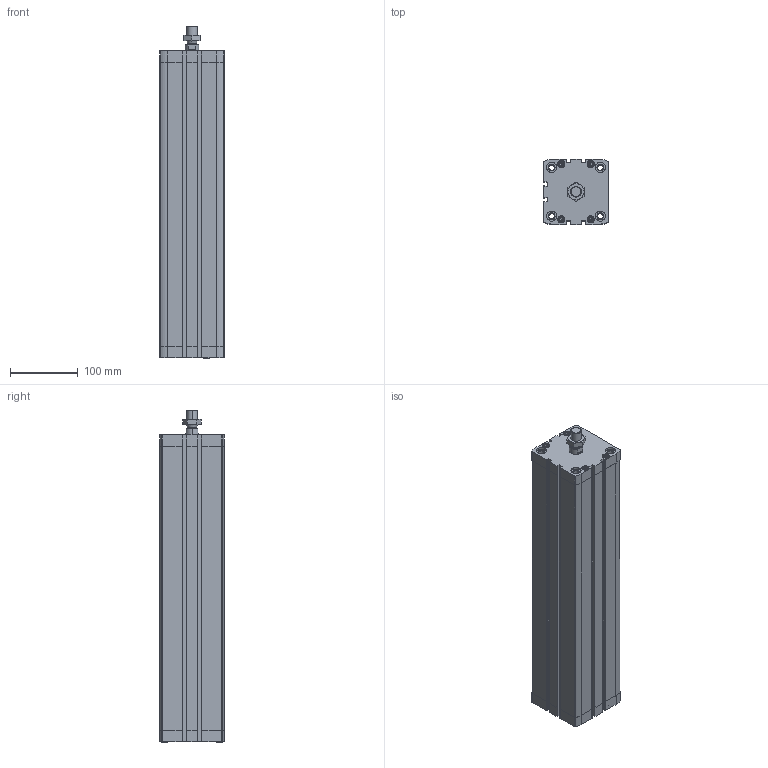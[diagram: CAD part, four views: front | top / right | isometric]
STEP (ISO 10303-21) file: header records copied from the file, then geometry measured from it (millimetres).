
FILE_DESCRIPTION (( 'STEP AP203' ), '1' );
FILE_NAME ('CCN80-400M.STEP', '2017-04-06T12:05:18', ( '' ), ( '' ), 'SwSTEP 2.0', 'SolidWorks 2016', '' );
FILE_SCHEMA (( 'CONFIG_CONTROL_DESIGN' ));
Length unit declared in the file: millimetre
Products named in the file (4): CCN-400----(Z); CCN-400_(KS); _DIN-439-B - M16x1.5(F); CCN80-400M
Assembly tree (3 placements, depth 2):
  CCN80-400M
    CCN-400----(Z)
    CCN-400_(KS)
    _DIN-439-B - M16x1.5(F)
Bounding box: 95.5 x 95.5 x 490.9 mm (x, y, z)
Volume: 2003047.8 mm3; surface area: 432671.1 mm2
Topology: 3 solids, 3 shells, 507 faces, 1280 edges, 810 vertices
Faces by surface type: plane 235, cylinder 188, cone 80, bspline 4
Entity records: 16106 total; most frequent: CARTESIAN_POINT 3299, DIRECTION 2708, ORIENTED_EDGE 2528, EDGE_CURVE 1264, AXIS2_PLACEMENT_3D 1015, VERTEX_POINT 810, VECTOR 678, LINE 678
